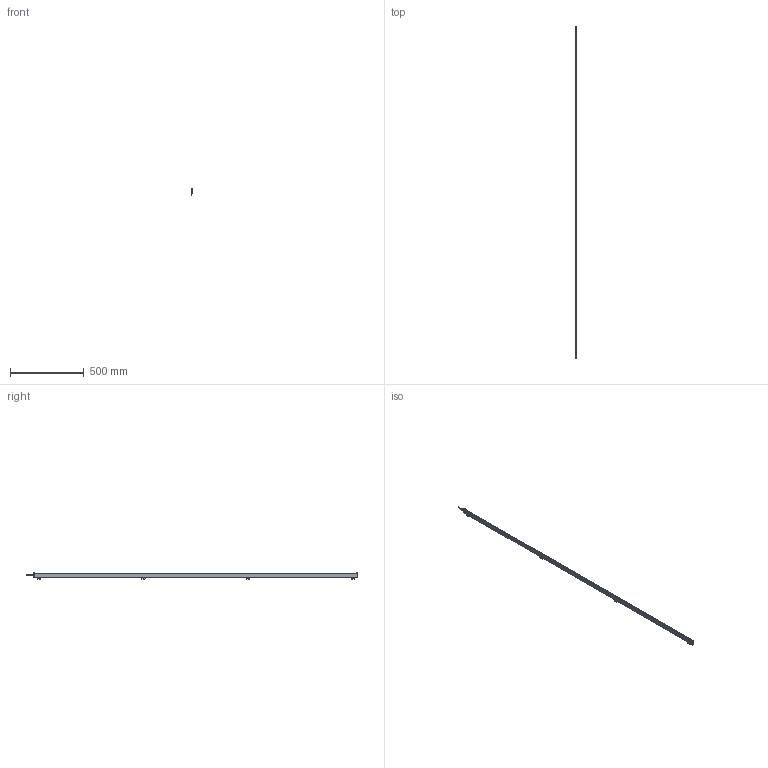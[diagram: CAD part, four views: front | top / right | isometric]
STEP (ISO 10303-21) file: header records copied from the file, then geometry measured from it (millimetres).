
FILE_DESCRIPTION (( 'STEP AP214' ), '1' );
FILE_NAME ('ILG-N-K2-2200mm.STEP', '2017-07-10T14:08:08', ( '' ), ( '' ), 'SwSTEP 2.0', 'SolidWorks 2016', '' );
FILE_SCHEMA (( 'AUTOMOTIVE_DESIGN' ));
Length unit declared in the file: millimetre
Products named in the file (1): ILG-N-K2-2200mm
Bounding box: 10.22 x 2253.5 x 42.41 mm (x, y, z)
Surface area: 369036.1 mm2 (no closed solid volume)
Topology: 0 solids, 17 shells, 822 faces, 2121 edges, 1329 vertices
Faces by surface type: plane 379, cylinder 305, cone 90, bspline 32, torus 16
Entity records: 36121 total; most frequent: CARTESIAN_POINT 7158, ORIENTED_EDGE 4195, DIRECTION 4057, EDGE_CURVE 2105, AXIS2_PLACEMENT_3D 1476, VERTEX_POINT 1329, VECTOR 1105, LINE 1105
